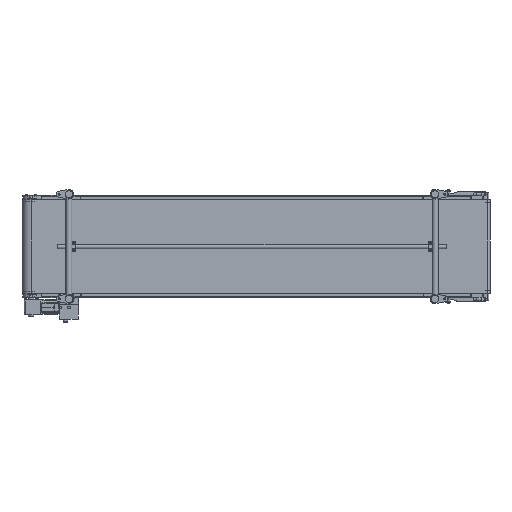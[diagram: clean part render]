
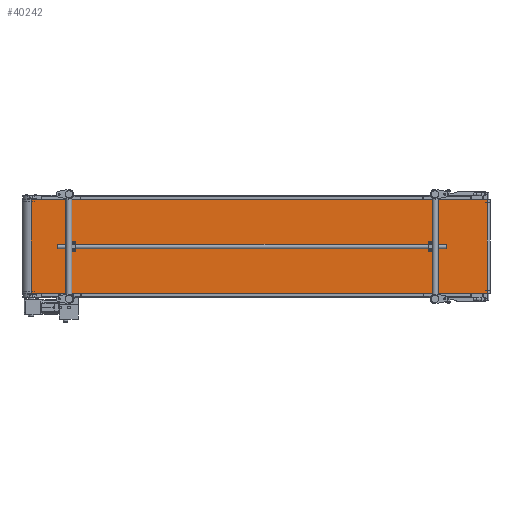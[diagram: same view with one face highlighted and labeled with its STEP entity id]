
A CAD part, front view. The second image highlights one B-rep face of the part: STEP entity #40242.
In plain terms, the highlighted planar face has unit normal (0.028, -1, 0).
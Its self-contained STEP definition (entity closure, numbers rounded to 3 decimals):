
#458 = EDGE_CURVE ( 'NONE', #42239, #36891, #32338, .T. ) ;
#736 = CARTESIAN_POINT ( 'NONE',  ( 2984.75, -33.193, -300. ) ) ;
#2261 = EDGE_CURVE ( 'NONE', #40974, #42239, #51491, .T. ) ;
#2584 = CARTESIAN_POINT ( 'NONE',  ( 59.108, -113.828, -300. ) ) ;
#4650 = ORIENTED_EDGE ( 'NONE', *, *, #4828, .F. ) ;
#4828 = EDGE_CURVE ( 'NONE', #43859, #36891, #39264, .T. ) ;
#6954 = CARTESIAN_POINT ( 'NONE',  ( 2984.75, -33.193, 300. ) ) ;
#10886 = PLANE ( 'NONE',  #58843 ) ;
#11587 = VECTOR ( 'NONE', #39746, 1000. ) ;
#15210 = DIRECTION ( 'NONE',  ( 0., 0., -1. ) ) ;
#15864 = CARTESIAN_POINT ( 'NONE',  ( 2984.75, -33.193, 300. ) ) ;
#17518 = ORIENTED_EDGE ( 'NONE', *, *, #458, .T. ) ;
#19500 = CARTESIAN_POINT ( 'NONE',  ( 2984.75, -33.193, 300. ) ) ;
#23869 = VECTOR ( 'NONE', #47349, 1000. ) ;
#26684 = FACE_OUTER_BOUND ( 'NONE', #58564, .T. ) ;
#29556 = ORIENTED_EDGE ( 'NONE', *, *, #55476, .F. ) ;
#30871 = VECTOR ( 'NONE', #40804, 1000. ) ;
#32338 = LINE ( 'NONE', #54880, #30871 ) ;
#34787 = DIRECTION ( 'NONE',  ( -0.028, 1., 0. ) ) ;
#36891 = VERTEX_POINT ( 'NONE', #736 ) ;
#38490 = CARTESIAN_POINT ( 'NONE',  ( 2984.75, -33.193, 300. ) ) ;
#39264 = LINE ( 'NONE', #38490, #52592 ) ;
#39746 = DIRECTION ( 'NONE',  ( 0., 0., -1. ) ) ;
#40242 = ADVANCED_FACE ( 'NONE', ( #26684 ), #10886, .F. ) ;
#40804 = DIRECTION ( 'NONE',  ( 1., 0.028, 0. ) ) ;
#40974 = VERTEX_POINT ( 'NONE', #57915 ) ;
#42239 = VERTEX_POINT ( 'NONE', #2584 ) ;
#43859 = VERTEX_POINT ( 'NONE', #6954 ) ;
#43867 = CARTESIAN_POINT ( 'NONE',  ( 59.108, -113.828, 300. ) ) ;
#47349 = DIRECTION ( 'NONE',  ( 1., 0.028, 0. ) ) ;
#49007 = LINE ( 'NONE', #19500, #23869 ) ;
#49065 = DIRECTION ( 'NONE',  ( -1., -0.028, 0. ) ) ;
#51491 = LINE ( 'NONE', #43867, #11587 ) ;
#52592 = VECTOR ( 'NONE', #15210, 1000. ) ;
#54880 = CARTESIAN_POINT ( 'NONE',  ( 2984.75, -33.193, -300. ) ) ;
#55476 = EDGE_CURVE ( 'NONE', #40974, #43859, #49007, .T. ) ;
#57915 = CARTESIAN_POINT ( 'NONE',  ( 59.108, -113.828, 300. ) ) ;
#58564 = EDGE_LOOP ( 'NONE', ( #17518, #4650, #29556, #60524 ) ) ;
#58843 = AXIS2_PLACEMENT_3D ( 'NONE', #15864, #34787, #49065 ) ;
#60524 = ORIENTED_EDGE ( 'NONE', *, *, #2261, .T. ) ;
